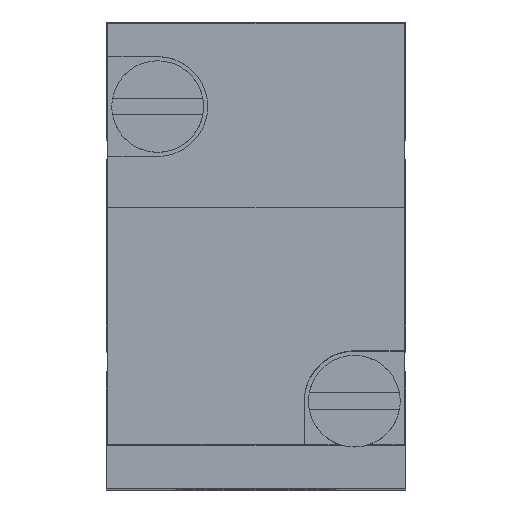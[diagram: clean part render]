
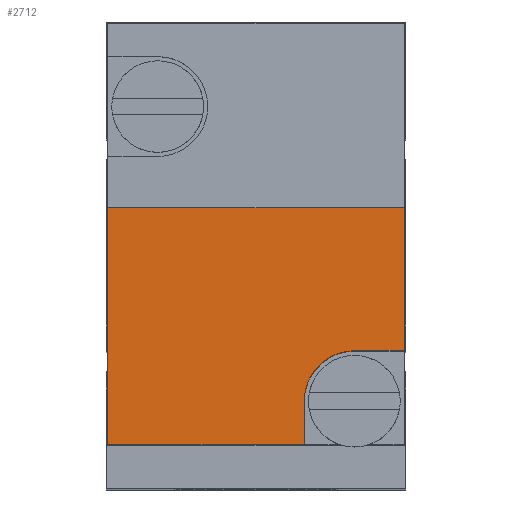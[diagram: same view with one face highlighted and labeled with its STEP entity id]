
A CAD part, top view. The second image highlights one B-rep face of the part: STEP entity #2712.
In plain terms, the highlighted planar face has unit normal (0, 0, 1).
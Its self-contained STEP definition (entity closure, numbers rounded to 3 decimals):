
#385=DIRECTION('',(0.,-1.,0.));
#386=VECTOR('',#385,8.581);
#387=CARTESIAN_POINT('',(8.9,2.8,56.5));
#388=LINE('',#387,#386);
#635=DIRECTION('',(0.,-1.,0.));
#636=VECTOR('',#635,14.2);
#637=CARTESIAN_POINT('',(-8.9,2.8,56.5));
#638=LINE('',#637,#636);
#659=DIRECTION('',(-1.,0.,0.));
#660=VECTOR('',#659,3.);
#661=CARTESIAN_POINT('',(8.9,-5.781,56.5));
#662=LINE('',#661,#660);
#663=CARTESIAN_POINT('',(5.9,-8.781,56.5));
#664=DIRECTION('',(0.,0.,1.));
#665=DIRECTION('',(0.,1.,0.));
#666=AXIS2_PLACEMENT_3D('',#663,#664,#665);
#668=DIRECTION('',(0.,1.,0.));
#669=VECTOR('',#668,2.619);
#670=CARTESIAN_POINT('',(2.9,-11.4,56.5));
#671=LINE('',#670,#669);
#672=DIRECTION('',(-1.,0.,0.));
#673=VECTOR('',#672,17.8);
#674=CARTESIAN_POINT('',(8.9,2.8,56.5));
#675=LINE('',#674,#673);
#692=DIRECTION('',(-1.,0.,0.));
#693=VECTOR('',#692,11.8);
#694=CARTESIAN_POINT('',(2.9,-11.4,56.5));
#695=LINE('',#694,#693);
#1855=CARTESIAN_POINT('',(8.9,2.8,56.5));
#1856=VERTEX_POINT('',#1855);
#1858=CARTESIAN_POINT('',(-8.9,2.8,56.5));
#1860=VERTEX_POINT('',#1858);
#1861=CARTESIAN_POINT('',(-8.9,-11.4,56.5));
#1862=VERTEX_POINT('',#1861);
#1895=CARTESIAN_POINT('',(8.9,-5.781,56.5));
#1897=VERTEX_POINT('',#1895);
#1899=CARTESIAN_POINT('',(5.9,-5.781,56.5));
#1900=VERTEX_POINT('',#1899);
#1901=CARTESIAN_POINT('',(2.9,-8.781,56.5));
#1902=VERTEX_POINT('',#1901);
#1903=CARTESIAN_POINT('',(2.9,-11.4,56.5));
#1904=VERTEX_POINT('',#1903);
#2695=CARTESIAN_POINT('',(8.9,2.8,56.5));
#2696=DIRECTION('',(0.,0.,1.));
#2697=DIRECTION('',(0.,-1.,0.));
#2698=AXIS2_PLACEMENT_3D('',#2695,#2696,#2697);
#2699=PLANE('',#2698);
#2700=ORIENTED_EDGE('',*,*,#2370,.T.);
#2702=ORIENTED_EDGE('',*,*,#2701,.T.);
#2704=ORIENTED_EDGE('',*,*,#2703,.F.);
#2706=ORIENTED_EDGE('',*,*,#2705,.T.);
#2707=ORIENTED_EDGE('',*,*,#2666,.F.);
#2708=ORIENTED_EDGE('',*,*,#2688,.F.);
#2709=ORIENTED_EDGE('',*,*,#2338,.T.);
#2710=EDGE_LOOP('',(#2700,#2702,#2704,#2706,#2707,#2708,#2709));
#2711=FACE_OUTER_BOUND('',#2710,.F.);
#2712=ADVANCED_FACE('',(#2711),#2699,.T.);
#667=CIRCLE('',#666,3.);
#2338=EDGE_CURVE('',#1856,#1897,#388,.T.);
#2370=EDGE_CURVE('',#1897,#1900,#662,.T.);
#2666=EDGE_CURVE('',#1860,#1862,#638,.T.);
#2688=EDGE_CURVE('',#1856,#1860,#675,.T.);
#2701=EDGE_CURVE('',#1900,#1902,#667,.T.);
#2703=EDGE_CURVE('',#1904,#1902,#671,.T.);
#2705=EDGE_CURVE('',#1904,#1862,#695,.T.);
